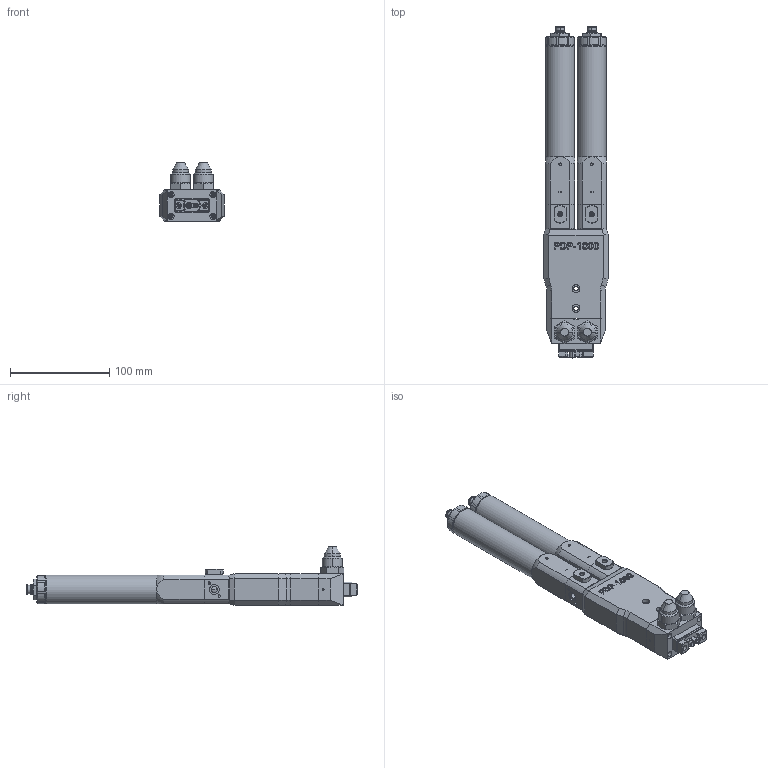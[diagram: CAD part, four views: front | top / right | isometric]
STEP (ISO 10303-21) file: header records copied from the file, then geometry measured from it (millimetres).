
FILE_DESCRIPTION (( 'STEP AP214' ), '1' );
FILE_NAME ('PDPM-1000BB.STEP', '2024-10-11T12:22:57', ( '' ), ( '' ), 'SwSTEP 2.0', 'SolidWorks 2024', '' );
FILE_SCHEMA (( 'AUTOMOTIVE_DESIGN' ));
Length unit declared in the file: millimetre
Products named in the file (1): PDPM-1000BB
Bounding box: 65 x 335 x 59.3 mm (x, y, z)
Volume: 506772.4 mm3; surface area: 122769.1 mm2
Topology: 13 solids, 13 shells, 1499 faces, 3761 edges, 2384 vertices
Faces by surface type: plane 580, cylinder 548, cone 277, bspline 74, torus 12, sphere 8
Full cylindrical faces by diameter (mm): 29 x2
Entity records: 68924 total; most frequent: CARTESIAN_POINT 33943, ORIENTED_EDGE 7432, DIRECTION 7019, EDGE_CURVE 3716, AXIS2_PLACEMENT_3D 2637, VERTEX_POINT 2383, VECTOR 1745, LINE 1745
